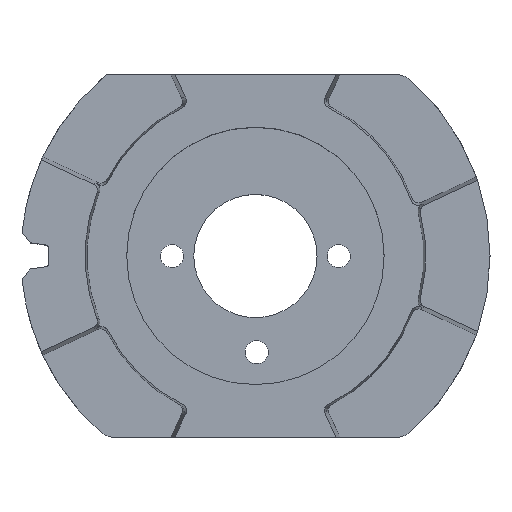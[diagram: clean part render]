
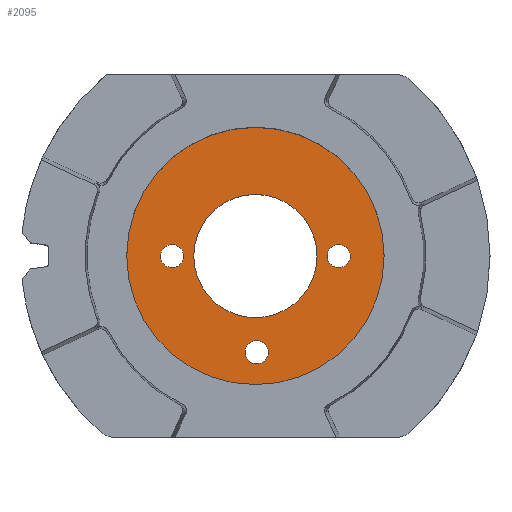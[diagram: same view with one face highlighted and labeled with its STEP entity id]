
A CAD part, top view. The second image highlights one B-rep face of the part: STEP entity #2095.
In plain terms, the highlighted planar face has unit normal (0, 0, 1).
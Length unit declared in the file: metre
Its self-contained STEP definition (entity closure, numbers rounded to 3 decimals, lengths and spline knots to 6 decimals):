
#668=ORIENTED_EDGE('',*,*,#1299,.F.);
#669=ORIENTED_EDGE('',*,*,#1300,.T.);
#670=ORIENTED_EDGE('',*,*,#1301,.T.);
#671=ORIENTED_EDGE('',*,*,#1302,.T.);
#672=ORIENTED_EDGE('',*,*,#1298,.F.);
#1298=EDGE_CURVE('',#1606,#1606,#1717,.T.);
#1299=EDGE_CURVE('',#1607,#1607,#1718,.T.);
#1300=EDGE_CURVE('',#1608,#1608,#1719,.T.);
#1301=EDGE_CURVE('',#1609,#1609,#1720,.T.);
#1302=EDGE_CURVE('',#1610,#1610,#1721,.T.);
#1606=VERTEX_POINT('',#3405);
#1607=VERTEX_POINT('',#3408);
#1608=VERTEX_POINT('',#3410);
#1609=VERTEX_POINT('',#3412);
#1610=VERTEX_POINT('',#3414);
#1717=CIRCLE('',#2293,0.01775);
#1718=CIRCLE('',#2295,0.0085);
#1719=CIRCLE('',#2296,0.0016);
#1720=CIRCLE('',#2297,0.0016);
#1721=CIRCLE('',#2298,0.0016);
#1784=EDGE_LOOP('',(#668));
#1785=EDGE_LOOP('',(#669));
#1786=EDGE_LOOP('',(#670));
#1787=EDGE_LOOP('',(#671));
#1788=EDGE_LOOP('',(#672));
#1922=FACE_BOUND('',#1784,.T.);
#1923=FACE_BOUND('',#1785,.T.);
#1924=FACE_BOUND('',#1786,.T.);
#1925=FACE_BOUND('',#1787,.T.);
#1926=FACE_BOUND('',#1788,.T.);
#2046=PLANE('',#2294);
#2095=ADVANCED_FACE('',(#1922,#1923,#1924,#1925,#1926),#2046,.F.);
#2293=AXIS2_PLACEMENT_3D('',#3404,#2669,#2670);
#2294=AXIS2_PLACEMENT_3D('',#3406,#2671,#2672);
#2295=AXIS2_PLACEMENT_3D('',#3407,#2673,#2674);
#2296=AXIS2_PLACEMENT_3D('',#3409,#2675,#2676);
#2297=AXIS2_PLACEMENT_3D('',#3411,#2677,#2678);
#2298=AXIS2_PLACEMENT_3D('',#3413,#2679,#2680);
#2669=DIRECTION('',(0.,0.,-1.));
#2670=DIRECTION('',(-1.,0.,0.));
#2671=DIRECTION('',(0.,0.,-1.));
#2672=DIRECTION('',(1.,0.,0.));
#2673=DIRECTION('',(0.,0.,1.));
#2674=DIRECTION('',(1.,0.,0.));
#2675=DIRECTION('',(0.,0.,-1.));
#2676=DIRECTION('',(-1.,0.,0.));
#2677=DIRECTION('',(0.,0.,-1.));
#2678=DIRECTION('',(-1.,0.,0.));
#2679=DIRECTION('',(0.,0.,-1.));
#2680=DIRECTION('',(-1.,0.,0.));
#3404=CARTESIAN_POINT('',(0.213,0.01235,-0.0765));
#3405=CARTESIAN_POINT('',(0.19525,0.01235,-0.0765));
#3406=CARTESIAN_POINT('',(0.213,0.01235,-0.0765));
#3407=CARTESIAN_POINT('',(0.213,0.01235,-0.0765));
#3408=CARTESIAN_POINT('',(0.2215,0.01235,-0.0765));
#3409=CARTESIAN_POINT('',(0.201501,0.01235,-0.0765));
#3410=CARTESIAN_POINT('',(0.199901,0.01235,-0.0765));
#3411=CARTESIAN_POINT('',(0.224499,0.01235,-0.0765));
#3412=CARTESIAN_POINT('',(0.222899,0.01235,-0.0765));
#3413=CARTESIAN_POINT('',(0.213174,-0.000899,-0.0765));
#3414=CARTESIAN_POINT('',(0.211574,-0.000899,-0.0765));
